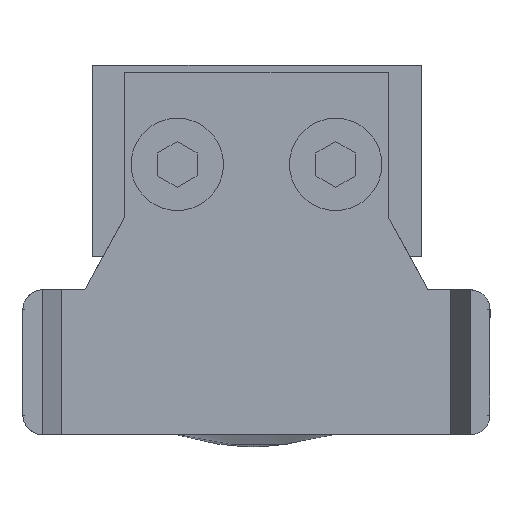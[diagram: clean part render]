
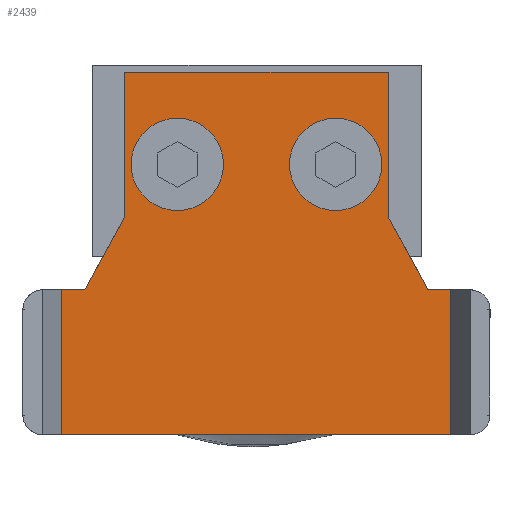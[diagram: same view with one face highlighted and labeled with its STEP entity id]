
A CAD part, left-side view. The second image highlights one B-rep face of the part: STEP entity #2439.
In plain terms, the highlighted planar face has unit normal (-1, 0, 0).
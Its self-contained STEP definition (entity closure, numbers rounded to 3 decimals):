
#9 = CARTESIAN_POINT ( 'NONE',  ( 4., 16.5, 10. ) ) ;
#45 = VECTOR ( 'NONE', #2221, 1000. ) ;
#49 = FACE_BOUND ( 'NONE', #2592, .T. ) ;
#96 = DIRECTION ( 'NONE',  ( -1., 0., 0. ) ) ;
#158 = EDGE_CURVE ( 'NONE', #6456, #2269, #384, .T. ) ;
#219 = DIRECTION ( 'NONE',  ( -1., 0., 0. ) ) ;
#278 = LINE ( 'NONE', #3270, #5151 ) ;
#316 = ORIENTED_EDGE ( 'NONE', *, *, #158, .F. ) ;
#355 = DIRECTION ( 'NONE',  ( -1., 0., 0. ) ) ;
#367 = DIRECTION ( 'NONE',  ( 0., 0., -1. ) ) ;
#368 = VECTOR ( 'NONE', #497, 1000. ) ;
#384 = CIRCLE ( 'NONE', #4812, 3.5 ) ;
#398 = DIRECTION ( 'NONE',  ( 0., 0., 1. ) ) ;
#400 = EDGE_CURVE ( 'NONE', #2725, #5950, #4456, .T. ) ;
#452 = LINE ( 'NONE', #6374, #3760 ) ;
#458 = CARTESIAN_POINT ( 'NONE',  ( 4., 9.5, -6. ) ) ;
#477 = PLANE ( 'NONE',  #2630 ) ;
#497 = DIRECTION ( 'NONE',  ( 0., 1., 0. ) ) ;
#505 = CARTESIAN_POINT ( 'NONE',  ( 4., -11., 14.744 ) ) ;
#625 = EDGE_CURVE ( 'NONE', #1480, #6256, #3705, .T. ) ;
#657 = LINE ( 'NONE', #1332, #4749 ) ;
#877 = CARTESIAN_POINT ( 'NONE',  ( 4., 9.5, -9.5 ) ) ;
#894 = CARTESIAN_POINT ( 'NONE',  ( 4., 0., 0. ) ) ;
#922 = ORIENTED_EDGE ( 'NONE', *, *, #2949, .T. ) ;
#981 = CARTESIAN_POINT ( 'NONE',  ( 4., 0., -13. ) ) ;
#1089 = LINE ( 'NONE', #5738, #1406 ) ;
#1159 = ORIENTED_EDGE ( 'NONE', *, *, #4101, .F. ) ;
#1187 = VECTOR ( 'NONE', #4799, 1000. ) ;
#1204 = ORIENTED_EDGE ( 'NONE', *, *, #4645, .F. ) ;
#1332 = CARTESIAN_POINT ( 'NONE',  ( 4., 16.5, -10. ) ) ;
#1406 = VECTOR ( 'NONE', #4246, 1000. ) ;
#1435 = DIRECTION ( 'NONE',  ( 0., 0., -1. ) ) ;
#1460 = CIRCLE ( 'NONE', #6433, 3.5 ) ;
#1480 = VERTEX_POINT ( 'NONE', #2472 ) ;
#1484 = VERTEX_POINT ( 'NONE', #981 ) ;
#1672 = DIRECTION ( 'NONE',  ( 0., -0.878, -0.479 ) ) ;
#1695 = EDGE_CURVE ( 'NONE', #5950, #2725, #1460, .T. ) ;
#1754 = DIRECTION ( 'NONE',  ( 0., 0., 1. ) ) ;
#1791 = EDGE_CURVE ( 'NONE', #2269, #6456, #6355, .T. ) ;
#1795 = ORIENTED_EDGE ( 'NONE', *, *, #2316, .T. ) ;
#1822 = EDGE_CURVE ( 'NONE', #2622, #2912, #5700, .T. ) ;
#1851 = CARTESIAN_POINT ( 'NONE',  ( 4., -11., 20. ) ) ;
#1928 = FACE_OUTER_BOUND ( 'NONE', #3838, .T. ) ;
#1978 = ORIENTED_EDGE ( 'NONE', *, *, #1695, .F. ) ;
#2221 = DIRECTION ( 'NONE',  ( 0., 0.878, -0.479 ) ) ;
#2269 = VERTEX_POINT ( 'NONE', #877 ) ;
#2316 = EDGE_CURVE ( 'NONE', #2912, #3361, #657, .T. ) ;
#2439 = ADVANCED_FACE ( 'NONE', ( #1928, #5696, #49 ), #477, .F. ) ;
#2472 = CARTESIAN_POINT ( 'NONE',  ( 4., -11., -14.744 ) ) ;
#2540 = LINE ( 'NONE', #2759, #3308 ) ;
#2580 = CARTESIAN_POINT ( 'NONE',  ( 4., 9.5, -2.5 ) ) ;
#2592 = EDGE_LOOP ( 'NONE', ( #4681, #1978 ) ) ;
#2622 = VERTEX_POINT ( 'NONE', #5533 ) ;
#2630 = AXIS2_PLACEMENT_3D ( 'NONE', #894, #4888, #1435 ) ;
#2725 = VERTEX_POINT ( 'NONE', #3030 ) ;
#2743 = EDGE_CURVE ( 'NONE', #4579, #1484, #5852, .T. ) ;
#2759 = CARTESIAN_POINT ( 'NONE',  ( 4., 5.5, -10. ) ) ;
#2825 = ORIENTED_EDGE ( 'NONE', *, *, #3806, .T. ) ;
#2897 = VECTOR ( 'NONE', #1672, 1000. ) ;
#2905 = CARTESIAN_POINT ( 'NONE',  ( 4., 9.5, 6. ) ) ;
#2912 = VERTEX_POINT ( 'NONE', #5066 ) ;
#2949 = EDGE_CURVE ( 'NONE', #3388, #2622, #6499, .T. ) ;
#3018 = ORIENTED_EDGE ( 'NONE', *, *, #3332, .F. ) ;
#3030 = CARTESIAN_POINT ( 'NONE',  ( 4., 9.5, 2.5 ) ) ;
#3175 = CARTESIAN_POINT ( 'NONE',  ( 4., 0., -13. ) ) ;
#3248 = CARTESIAN_POINT ( 'NONE',  ( 4., 9.5, -6. ) ) ;
#3270 = CARTESIAN_POINT ( 'NONE',  ( 4., 0., 0. ) ) ;
#3308 = VECTOR ( 'NONE', #4765, 1000. ) ;
#3332 = EDGE_CURVE ( 'NONE', #3388, #6524, #278, .T. ) ;
#3349 = DIRECTION ( 'NONE',  ( 0., -1., 0. ) ) ;
#3361 = VERTEX_POINT ( 'NONE', #5729 ) ;
#3388 = VERTEX_POINT ( 'NONE', #6321 ) ;
#3460 = ORIENTED_EDGE ( 'NONE', *, *, #4532, .F. ) ;
#3569 = CARTESIAN_POINT ( 'NONE',  ( 4., 9.5, 6. ) ) ;
#3685 = CARTESIAN_POINT ( 'NONE',  ( 4., 5.5, 10. ) ) ;
#3705 = LINE ( 'NONE', #1851, #1187 ) ;
#3732 = DIRECTION ( 'NONE',  ( 0., 0., -1. ) ) ;
#3760 = VECTOR ( 'NONE', #3349, 1000. ) ;
#3806 = EDGE_CURVE ( 'NONE', #3361, #4579, #2540, .T. ) ;
#3817 = CARTESIAN_POINT ( 'NONE',  ( 4., 5.5, -10. ) ) ;
#3838 = EDGE_LOOP ( 'NONE', ( #4211, #3460, #3018, #922, #4592, #1795, #2825, #4630, #1204, #1159 ) ) ;
#3885 = CARTESIAN_POINT ( 'NONE',  ( 4., 0., -14.744 ) ) ;
#4086 = DIRECTION ( 'NONE',  ( 0., 0., -1. ) ) ;
#4101 = EDGE_CURVE ( 'NONE', #1480, #4328, #1089, .T. ) ;
#4211 = ORIENTED_EDGE ( 'NONE', *, *, #625, .T. ) ;
#4227 = VECTOR ( 'NONE', #398, 1000. ) ;
#4246 = DIRECTION ( 'NONE',  ( 0., 1., 0. ) ) ;
#4328 = VERTEX_POINT ( 'NONE', #3885 ) ;
#4373 = DIRECTION ( 'NONE',  ( 0., 0., -1. ) ) ;
#4456 = CIRCLE ( 'NONE', #5941, 3.5 ) ;
#4496 = DIRECTION ( 'NONE',  ( -1., 0., 0. ) ) ;
#4532 = EDGE_CURVE ( 'NONE', #6524, #6256, #452, .T. ) ;
#4579 = VERTEX_POINT ( 'NONE', #3817 ) ;
#4592 = ORIENTED_EDGE ( 'NONE', *, *, #1822, .T. ) ;
#4618 = LINE ( 'NONE', #4840, #4227 ) ;
#4630 = ORIENTED_EDGE ( 'NONE', *, *, #2743, .T. ) ;
#4645 = EDGE_CURVE ( 'NONE', #4328, #1484, #4618, .T. ) ;
#4673 = CARTESIAN_POINT ( 'NONE',  ( 4., 0., 14.744 ) ) ;
#4681 = ORIENTED_EDGE ( 'NONE', *, *, #400, .F. ) ;
#4704 = EDGE_LOOP ( 'NONE', ( #6118, #316 ) ) ;
#4749 = VECTOR ( 'NONE', #367, 1000. ) ;
#4765 = DIRECTION ( 'NONE',  ( 0., -1., 0. ) ) ;
#4799 = DIRECTION ( 'NONE',  ( 0., 0., 1. ) ) ;
#4812 = AXIS2_PLACEMENT_3D ( 'NONE', #3248, #219, #3732 ) ;
#4840 = CARTESIAN_POINT ( 'NONE',  ( 4., 0., 0. ) ) ;
#4888 = DIRECTION ( 'NONE',  ( 1., 0., 0. ) ) ;
#5066 = CARTESIAN_POINT ( 'NONE',  ( 4., 16.5, 10. ) ) ;
#5071 = AXIS2_PLACEMENT_3D ( 'NONE', #458, #4496, #5502 ) ;
#5151 = VECTOR ( 'NONE', #1754, 1000. ) ;
#5502 = DIRECTION ( 'NONE',  ( 0., 0., -1. ) ) ;
#5533 = CARTESIAN_POINT ( 'NONE',  ( 4., 5.5, 10. ) ) ;
#5696 = FACE_BOUND ( 'NONE', #4704, .T. ) ;
#5700 = LINE ( 'NONE', #9, #368 ) ;
#5729 = CARTESIAN_POINT ( 'NONE',  ( 4., 16.5, -10. ) ) ;
#5738 = CARTESIAN_POINT ( 'NONE',  ( 4., 0., -14.744 ) ) ;
#5852 = LINE ( 'NONE', #3175, #2897 ) ;
#5941 = AXIS2_PLACEMENT_3D ( 'NONE', #3569, #96, #4086 ) ;
#5950 = VERTEX_POINT ( 'NONE', #6405 ) ;
#6118 = ORIENTED_EDGE ( 'NONE', *, *, #1791, .F. ) ;
#6256 = VERTEX_POINT ( 'NONE', #505 ) ;
#6321 = CARTESIAN_POINT ( 'NONE',  ( 4., 0., 13. ) ) ;
#6355 = CIRCLE ( 'NONE', #5071, 3.5 ) ;
#6374 = CARTESIAN_POINT ( 'NONE',  ( 4., 0., 14.744 ) ) ;
#6405 = CARTESIAN_POINT ( 'NONE',  ( 4., 9.5, 9.5 ) ) ;
#6433 = AXIS2_PLACEMENT_3D ( 'NONE', #2905, #355, #4373 ) ;
#6456 = VERTEX_POINT ( 'NONE', #2580 ) ;
#6499 = LINE ( 'NONE', #3685, #45 ) ;
#6524 = VERTEX_POINT ( 'NONE', #4673 ) ;
